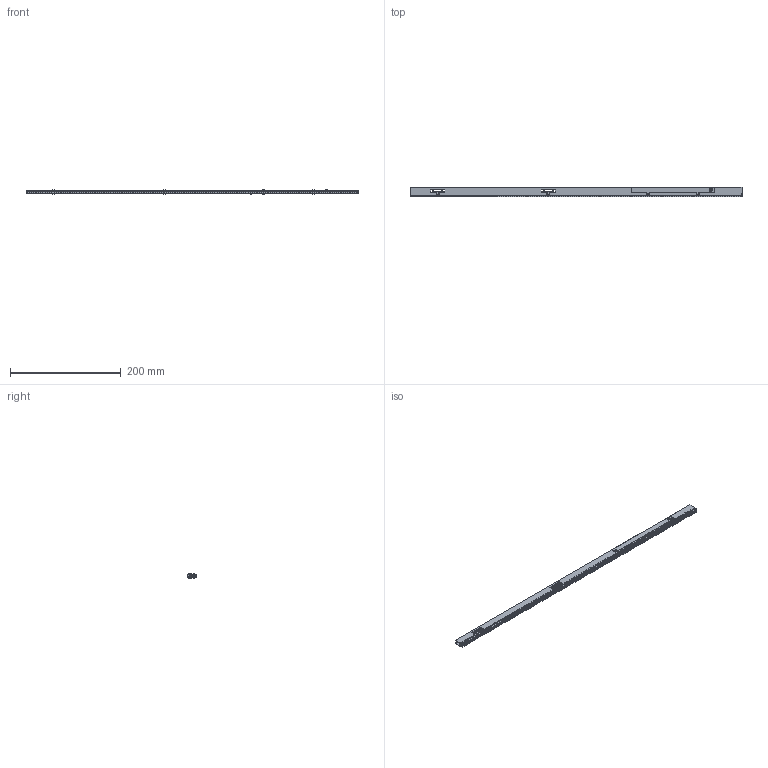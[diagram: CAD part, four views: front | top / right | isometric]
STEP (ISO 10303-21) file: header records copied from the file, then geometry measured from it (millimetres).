
FILE_DESCRIPTION (( 'STEP AP203' ), '1' );
FILE_NAME ('BD0110 Slit.STEP', '2025-08-02T09:55:42', ( '' ), ( '' ), 'SwSTEP 2.0', 'SolidWorks 2020', '' );
FILE_SCHEMA (( 'CONFIG_CONTROL_DESIGN' ));
Length unit declared in the file: millimetre
Products named in the file (10): KC-0006-0024-1.stp; KC-0006-0032.stp; BD0110 Slit; KC-0006-0025.stp; KC-0006-0004.stp; M2_4-01.stp; kc-0006-0028.stp; M2_5-01.stp; KC-0006-0085.stp; KC-0006-0023-1.stp
Assembly tree (19 placements, depth 2):
  BD0110 Slit
    KC-0006-0085.stp
    KC-0006-0023-1.stp
    KC-0006-0024-1.stp
    KC-0006-0004.stp  x4
    kc-0006-0028.stp
    KC-0006-0032.stp  x2
    KC-0006-0025.stp  x2
    M2_5-01.stp  x3
    M2_4-01.stp  x4
Bounding box: 600 x 17.7 x 8.8 mm (x, y, z)
Volume: 44651.8 mm3; surface area: 72869.3 mm2
Topology: 19 solids, 20 shells, 6939 faces, 17553 edges, 11235 vertices
Faces by surface type: plane 5664, cylinder 936, cone 179, bspline 98, sphere 32, torus 30
Entity records: 190893 total; most frequent: CARTESIAN_POINT 40600, ORIENTED_EDGE 32118, DIRECTION 27931, EDGE_CURVE 16059, VECTOR 13999, LINE 13999, VERTEX_POINT 10292, EDGE_LOOP 7011
